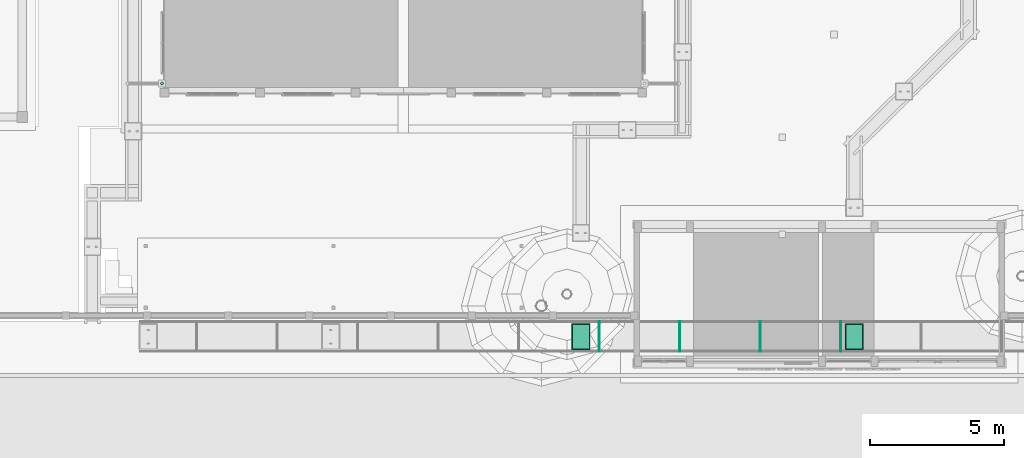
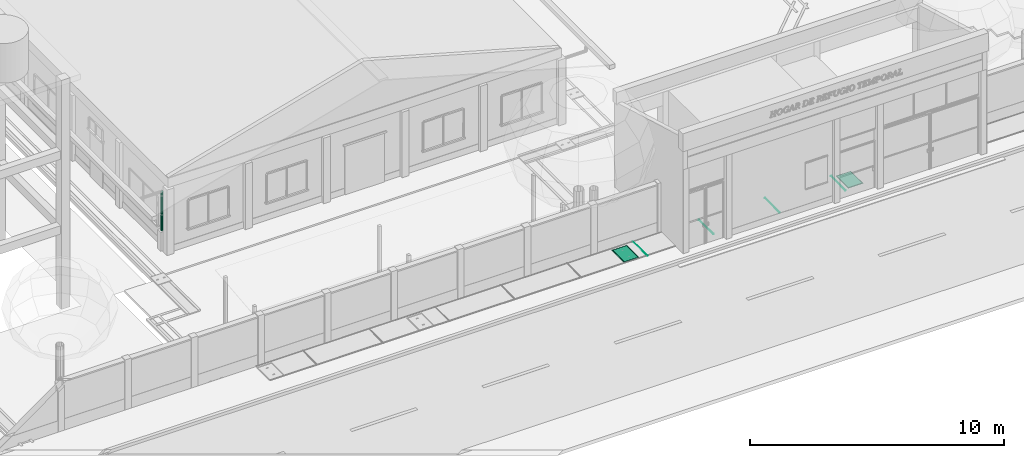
# One storey, part 95 of 177: 5 pipe segments, 4 distribution chamber elements.
"""IFC4 building model written with IfcOpenShell, lengths in metres."""

import ifcopenshell
import ifcopenshell.guid

model = None  # the IFC model being written
_history = None  # IfcOwnerHistory: only IFC2X3 demands one
_inside = {}  # id of a spatial element -> (the spatial element, [elements in it])
_under = {}  # id of a project, library or spatial element -> (it, [spatial elements below it])
_declared = {}  # id of a project -> (the project, [libraries it declares])
_typed = {}  # id of a type object -> (the type object, [elements of that type])
_made_of = {}  # id of a material, layer set ... -> (it, [elements and type objects made of it])


def new_model(schema):
    """Start an empty IFC model of exactly this schema.

    Asked for "IFC4X3", IfcOpenShell would pick the latest addendum, in which some entities
    have other attributes; the version numbers below select the first issue.
    IFC2X3 requires an IfcOwnerHistory on every rooted entity: one is made here for all.
    """
    global model, _history
    if schema == "IFC4X3":
        model = ifcopenshell.file(schema_version=(4, 3, 0, 0))
    else:
        model = ifcopenshell.file(schema=schema)
    _inside.clear()
    _under.clear()
    _declared.clear()
    _typed.clear()
    _made_of.clear()
    _history = None
    if model.schema == "IFC2X3":
        org = make("IfcOrganization", Name="unknown")
        user = make(
            "IfcPersonAndOrganization",
            ThePerson=make("IfcPerson", FamilyName="unknown"),
            TheOrganization=org,
        )
        app = make(
            "IfcApplication",
            ApplicationDeveloper=org,
            Version="unknown",
            ApplicationFullName="unknown",
            ApplicationIdentifier="unknown",
        )
        _history = make(
            "IfcOwnerHistory",
            OwningUser=user,
            OwningApplication=app,
            ChangeAction="ADDED",
            CreationDate=0,
        )
    return model


def make(cls, **values):
    """One entity of the class cls with the attributes given. An attribute that is None is left unset."""
    return model.create_entity(
        cls, **{name: value for name, value in values.items() if value is not None}
    )


def rooted(cls, **values):
    """An entity with a GlobalId (a new one), such as an element, a storey or a relation."""
    return make(cls, GlobalId=ifcopenshell.guid.new(), OwnerHistory=_history, **values)


def si_unit(unit_type, name, prefix=None):
    """IfcSIUnit, for example si_unit("LENGTHUNIT", "METRE", prefix="MILLI")."""
    return make("IfcSIUnit", UnitType=unit_type, Prefix=prefix, Name=name)


def assignment(units):
    """IfcUnitAssignment: the units of a project."""
    return None if units is None else make("IfcUnitAssignment", Units=units)


def point(xyz):
    """IfcCartesianPoint."""
    return None if xyz is None else make("IfcCartesianPoint", Coordinates=xyz)


def direction(xyz):
    """IfcDirection."""
    return None if xyz is None else make("IfcDirection", DirectionRatios=xyz)


def frame(location, z_axis=None, x_axis=None):
    """IfcAxis2Placement3D, a coordinate frame: its origin and axes. An axis left out is left unset."""
    return make(
        "IfcAxis2Placement3D",
        Location=point(location),
        Axis=direction(z_axis),
        RefDirection=direction(x_axis),
    )


def origin():
    """The frame at (0, 0, 0) with its axes left unset."""
    return frame((0.0, 0.0, 0.0))


def origin_with_axes():
    """The frame at (0, 0, 0) with the z axis (0, 0, 1) and the x axis (1, 0, 0) written out."""
    return frame((0.0, 0.0, 0.0), z_axis=(0.0, 0.0, 1.0), x_axis=(1.0, 0.0, 0.0))


def place(relative_to, where):
    """IfcLocalPlacement: puts the frame where relative to a parent placement (None: the world)."""
    return make(
        "IfcLocalPlacement", PlacementRelTo=relative_to, RelativePlacement=where
    )


def context(
    kind, dimensions, precision=None, world=None, true_north=None, identifier=None
):
    """IfcGeometricRepresentationContext, for example the 3D "Model" context."""
    return make(
        "IfcGeometricRepresentationContext",
        ContextIdentifier=identifier,
        ContextType=kind,
        CoordinateSpaceDimension=dimensions,
        Precision=precision,
        WorldCoordinateSystem=world,
        TrueNorth=true_north,
    )


def subcontext(parent, identifier, kind, view, scale=None):
    """IfcGeometricRepresentationSubContext, for example "Body" below "Model"."""
    return make(
        "IfcGeometricRepresentationSubContext",
        ContextIdentifier=identifier,
        ContextType=kind,
        ParentContext=parent,
        TargetScale=scale,
        TargetView=view,
    )


def project(units=None, contexts=None):
    """IfcProject with its units and contexts."""
    return rooted(
        "IfcProject",
        Name="project",
        RepresentationContexts=contexts,
        UnitsInContext=assignment(units),
    )


def spatial(cls, under=None, at=None, **own):
    """A site, building, storey or space (cls), placed at a placement, below another one or the project."""
    s = rooted(cls, ObjectPlacement=at, **own)
    if under is not None:
        _under.setdefault(under.id(), (under, []))[1].append(s)
    return s


def point_list(points):
    """IfcCartesianPointList2D or 3D."""
    cls = (
        "IfcCartesianPointList2D" if len(points[0]) == 2 else "IfcCartesianPointList3D"
    )
    return make(cls, CoordList=points)


def triangles(points, corners, closed=None, point_numbers=None):
    """IfcTriangulatedFaceSet: each triangle names its three corners, points numbered from 1."""
    return make(
        "IfcTriangulatedFaceSet",
        Coordinates=point_list(points),
        Closed=closed,
        CoordIndex=corners,
        PnIndex=point_numbers,
    )


def shape(context_of_items, identifier, shape_type, items):
    """IfcShapeRepresentation: the items that make up one representation, for example the "Body"."""
    return make(
        "IfcShapeRepresentation",
        ContextOfItems=context_of_items,
        RepresentationIdentifier=identifier,
        RepresentationType=shape_type,
        Items=items,
    )


def made_of(thing, what):
    """Note that an element or type object is made of a material, layer set ...; save() writes the relation."""
    if what is not None:
        _made_of.setdefault(what.id(), (what, []))[1].append(thing)
    return thing


def element(
    cls,
    number,
    at=None,
    inside=None,
    cuts=None,
    type_object=None,
    material=None,
    context=None,
    identifier="Body",
    shape_type=None,
    held_by="IfcProductDefinitionShape",
    body=None,
    shapes=None,
    **own,
):
    """One element of the class cls, such as IfcWall. Its Tag is "e" and its number.

    at: its placement. inside: the storey or other place that contains it. cuts: it is an
    opening in that element (IfcRelVoidsElement). A single representation is given by context,
    identifier, shape_type and body (its items); several are given by shapes. held_by: the class
    of the entity that holds the representations. save() writes the other relations.
    """
    e = rooted(cls, Tag="e%d" % number, ObjectPlacement=at, **own)
    if body is not None:
        shapes = [shape(context, identifier, shape_type, body)]
    if shapes is not None:
        e.Representation = make(held_by, Representations=shapes)
    if inside is not None:
        _inside.setdefault(inside.id(), (inside, []))[1].append(e)
    if cuts is not None:
        rooted(
            "IfcRelVoidsElement", RelatingBuildingElement=cuts, RelatedOpeningElement=e
        )
    if type_object is not None:
        _typed.setdefault(type_object.id(), (type_object, []))[1].append(e)
    return made_of(e, material)


def aggregate(whole, parts):
    """IfcRelAggregates: a whole, such as a stair, and the parts it consists of."""
    return rooted("IfcRelAggregates", RelatingObject=whole, RelatedObjects=parts)


def save(model, path):
    """Write the relations noted so far, then the file.

    IfcRelAggregates (storeys below a building ...), IfcRelContainedInSpatialStructure (elements
    in a storey), IfcRelDefinesByType, IfcRelAssociatesMaterial and IfcRelDeclares: one each for
    every whole, place, type object, material and project.
    """
    for whole, parts in _under.values():
        aggregate(whole, parts)
    for where, things in _inside.values():
        rooted(
            "IfcRelContainedInSpatialStructure",
            RelatedElements=things,
            RelatingStructure=where,
        )
    for kind, things in _typed.values():
        rooted("IfcRelDefinesByType", RelatedObjects=things, RelatingType=kind)
    for what, things in _made_of.values():
        rooted("IfcRelAssociatesMaterial", RelatedObjects=things, RelatingMaterial=what)
    for by, libraries in _declared.values():
        rooted("IfcRelDeclares", RelatingContext=by, RelatedDefinitions=libraries)
    model.write(path)


model = new_model("IFC4")

# Units and contexts
model_context = context("Model", 3, precision=1e-05, world=origin_with_axes())
body_context = subcontext(model_context, "Body", "Model", "MODEL_VIEW")
ifc_project = project(units=[si_unit("LENGTHUNIT", "METRE"), si_unit("AREAUNIT", "SQUARE_METRE"), si_unit("VOLUMEUNIT", "CUBIC_METRE"), si_unit("PLANEANGLEUNIT", "RADIAN")], contexts=[model_context])

# Site, building, storey
site_placement = place(None, origin_with_axes())
site = spatial("IfcSite", under=ifc_project, at=site_placement, Name="Predio Los Mangos - Morales, San Martín", CompositionType="ELEMENT")
building_placement = place(site_placement, origin())
building = spatial("IfcBuilding", under=site, at=building_placement, Name="Hogar de Refugio Temporal", CompositionType="ELEMENT")
storey_placement = place(building_placement, origin())
storey = spatial("IfcBuildingStorey", under=building, at=storey_placement, Name="NIVEL 1 (NPT +0.00)", CompositionType="ELEMENT", Elevation=0.0)

# Pipe segments
pipe_segment_1_placement = place(storey_placement, origin())
element("IfcPipeSegment", 1, at=pipe_segment_1_placement, inside=storey, Name="montante_bajada", ObjectType="Montante PVC 4\"", PredefinedType="RIGIDSEGMENT", context=body_context, shape_type="Tessellation", body=[
    triangles([(13.71, 26.705, 2.91), (13.71, 26.705, 1.05), (13.6825, 26.6976, 2.91), (13.6825, 26.6976, 1.05), (13.6624, 26.6775, 2.91), (13.6624, 26.6775, 1.05), (13.655, 26.65, 2.91), (13.655, 26.65, 1.05), (13.6624, 26.6225, 2.91), (13.6624, 26.6225, 1.05), (13.6825, 26.6024, 2.91), (13.6825, 26.6024, 1.05), (13.71, 26.595, 2.91), (13.71, 26.595, 1.05), (13.7375, 26.6024, 2.91), (13.7375, 26.6024, 1.05), (13.7576, 26.6225, 2.91), (13.7576, 26.6225, 1.05), (13.765, 26.65, 2.91), (13.765, 26.65, 1.05), (13.7576, 26.6775, 2.91), (13.7576, 26.6775, 1.05), (13.7375, 26.6976, 2.91), (13.7375, 26.6976, 1.05)], [[1, 2, 4], [1, 4, 3], [3, 4, 6], [3, 6, 5], [5, 6, 8], [5, 8, 7], [7, 8, 10], [7, 10, 9], [9, 10, 12], [9, 12, 11], [11, 12, 14], [11, 14, 13], [13, 14, 16], [13, 16, 15], [15, 16, 18], [15, 18, 17], [17, 18, 20], [17, 20, 19], [19, 20, 22], [19, 22, 21], [6, 4, 2], [2, 24, 22], [22, 20, 18], [18, 16, 14], [14, 12, 10], [10, 8, 6], [6, 2, 22], [22, 18, 14], [14, 10, 6], [22, 14, 6], [21, 22, 24], [21, 24, 23], [23, 24, 2], [23, 2, 1], [23, 1, 3], [3, 5, 7], [7, 9, 11], [11, 13, 15], [15, 17, 19], [19, 21, 23], [23, 3, 7], [7, 11, 15], [15, 19, 23], [7, 15, 23]]),
])
pipe_segment_2_placement = place(storey_placement, origin())
element("IfcPipeSegment", 2, at=pipe_segment_2_placement, inside=storey, Name="junta_losa", ObjectType="Colector frontal b=0.80 (losa-vereda)", PredefinedType="CULVERT", context=body_context, shape_type="Tessellation", body=[
    triangles([(38.9873, 16.665, 0.15), (39.0127, 16.665, 0.15), (39.0127, 17.79, 0.15), (38.9873, 17.79, 0.15), (38.9873, 16.665, 0.1635), (39.0127, 16.665, 0.1635), (39.0127, 17.79, 0.1635), (38.9873, 17.79, 0.1635)], [[1, 4, 3], [1, 3, 2], [5, 6, 7], [5, 7, 8], [1, 2, 6], [1, 6, 5], [2, 3, 7], [2, 7, 6], [3, 4, 8], [3, 8, 7], [4, 1, 5], [4, 5, 8]]),
])
pipe_segment_3_placement = place(storey_placement, origin())
element("IfcPipeSegment", 3, at=pipe_segment_3_placement, inside=storey, Name="junta_losa", ObjectType="Colector frontal b=0.80 (losa-vereda)", PredefinedType="CULVERT", context=body_context, shape_type="Tessellation", body=[
    triangles([(35.9873, 16.665, 0.15), (36.0127, 16.665, 0.15), (36.0127, 17.79, 0.15), (35.9873, 17.79, 0.15), (35.9873, 16.665, 0.1635), (36.0127, 16.665, 0.1635), (36.0127, 17.79, 0.1635), (35.9873, 17.79, 0.1635)], [[1, 4, 3], [1, 3, 2], [5, 6, 7], [5, 7, 8], [1, 2, 6], [1, 6, 5], [2, 3, 7], [2, 7, 6], [3, 4, 8], [3, 8, 7], [4, 1, 5], [4, 5, 8]]),
])
pipe_segment_4_placement = place(storey_placement, origin())
element("IfcPipeSegment", 4, at=pipe_segment_4_placement, inside=storey, Name="junta_losa", ObjectType="Colector frontal b=0.80 (losa-vereda)", PredefinedType="CULVERT", context=body_context, shape_type="Tessellation", body=[
    triangles([(32.9873, 16.665, 0.15), (33.0127, 16.665, 0.15), (33.0127, 17.79, 0.15), (32.9873, 17.79, 0.15), (32.9873, 16.665, 0.1635), (33.0127, 16.665, 0.1635), (33.0127, 17.79, 0.1635), (32.9873, 17.79, 0.1635)], [[1, 4, 3], [1, 3, 2], [5, 6, 7], [5, 7, 8], [1, 2, 6], [1, 6, 5], [2, 3, 7], [2, 7, 6], [3, 4, 8], [3, 8, 7], [4, 1, 5], [4, 5, 8]]),
])
pipe_segment_5_placement = place(storey_placement, origin())
element("IfcPipeSegment", 5, at=pipe_segment_5_placement, inside=storey, Name="junta_losa", ObjectType="Colector frontal b=0.80 (losa-vereda)", PredefinedType="CULVERT", context=body_context, shape_type="Tessellation", body=[
    triangles([(29.9873, 16.665, 0.15), (30.0127, 16.665, 0.15), (30.0127, 17.79, 0.15), (29.9873, 17.79, 0.15), (29.9873, 16.665, 0.1635), (30.0127, 16.665, 0.1635), (30.0127, 17.79, 0.1635), (29.9873, 17.79, 0.1635)], [[1, 4, 3], [1, 3, 2], [5, 6, 7], [5, 7, 8], [1, 2, 6], [1, 6, 5], [2, 3, 7], [2, 7, 6], [3, 4, 8], [3, 8, 7], [4, 1, 5], [4, 5, 8]]),
])

# Distribution chamber elements
distribution_chamber_element_1_placement = place(storey_placement, origin())
element("IfcDistributionChamberElement", 6, at=distribution_chamber_element_1_placement, inside=storey, Name="tapa_junta", ObjectType="Tapa ciega de registro del colector", PredefinedType="INSPECTIONCHAMBER", context=body_context, shape_type="Tessellation", body=[
    triangles([(39.155, 16.72, 0.161), (39.845, 16.72, 0.161), (39.845, 17.71, 0.161), (39.155, 17.71, 0.161), (39.155, 16.72, 0.164), (39.845, 16.72, 0.164), (39.845, 17.71, 0.164), (39.155, 17.71, 0.164)], [[1, 4, 3], [1, 3, 2], [5, 6, 7], [5, 7, 8], [1, 2, 6], [1, 6, 5], [2, 3, 7], [2, 7, 6], [3, 4, 8], [3, 8, 7], [4, 1, 5], [4, 5, 8]]),
])
distribution_chamber_element_2_placement = place(storey_placement, origin())
element("IfcDistributionChamberElement", 7, at=distribution_chamber_element_2_placement, inside=storey, Name="tapa_ciega", ObjectType="Tapa ciega de registro del colector", PredefinedType="INSPECTIONCHAMBER", context=body_context, shape_type="Tessellation", body=[
    triangles([(39.19, 16.755, 0.161), (39.81, 16.755, 0.161), (39.81, 17.675, 0.161), (39.19, 17.675, 0.161), (39.19, 16.755, 0.17), (39.81, 16.755, 0.17), (39.81, 17.675, 0.17), (39.19, 17.675, 0.17)], [[1, 4, 3], [1, 3, 2], [5, 6, 7], [5, 7, 8], [1, 2, 6], [1, 6, 5], [2, 3, 7], [2, 7, 6], [3, 4, 8], [3, 8, 7], [4, 1, 5], [4, 5, 8]]),
])
distribution_chamber_element_3_placement = place(storey_placement, origin())
element("IfcDistributionChamberElement", 8, at=distribution_chamber_element_3_placement, inside=storey, Name="tapa_junta", ObjectType="Tapa ciega de registro del colector", PredefinedType="INSPECTIONCHAMBER", context=body_context, shape_type="Tessellation", body=[
    triangles([(28.975, 16.72, 0.161), (29.665, 16.72, 0.161), (29.665, 17.71, 0.161), (28.975, 17.71, 0.161), (28.975, 16.72, 0.164), (29.665, 16.72, 0.164), (29.665, 17.71, 0.164), (28.975, 17.71, 0.164)], [[1, 4, 3], [1, 3, 2], [5, 6, 7], [5, 7, 8], [1, 2, 6], [1, 6, 5], [2, 3, 7], [2, 7, 6], [3, 4, 8], [3, 8, 7], [4, 1, 5], [4, 5, 8]]),
])
distribution_chamber_element_4_placement = place(storey_placement, origin())
element("IfcDistributionChamberElement", 9, at=distribution_chamber_element_4_placement, inside=storey, Name="tapa_ciega", ObjectType="Tapa ciega de registro del colector", PredefinedType="INSPECTIONCHAMBER", context=body_context, shape_type="Tessellation", body=[
    triangles([(29.01, 16.755, 0.161), (29.63, 16.755, 0.161), (29.63, 17.675, 0.161), (29.01, 17.675, 0.161), (29.01, 16.755, 0.17), (29.63, 16.755, 0.17), (29.63, 17.675, 0.17), (29.01, 17.675, 0.17)], [[1, 4, 3], [1, 3, 2], [5, 6, 7], [5, 7, 8], [1, 2, 6], [1, 6, 5], [2, 3, 7], [2, 7, 6], [3, 4, 8], [3, 8, 7], [4, 1, 5], [4, 5, 8]]),
])

save(model, "model.ifc")
